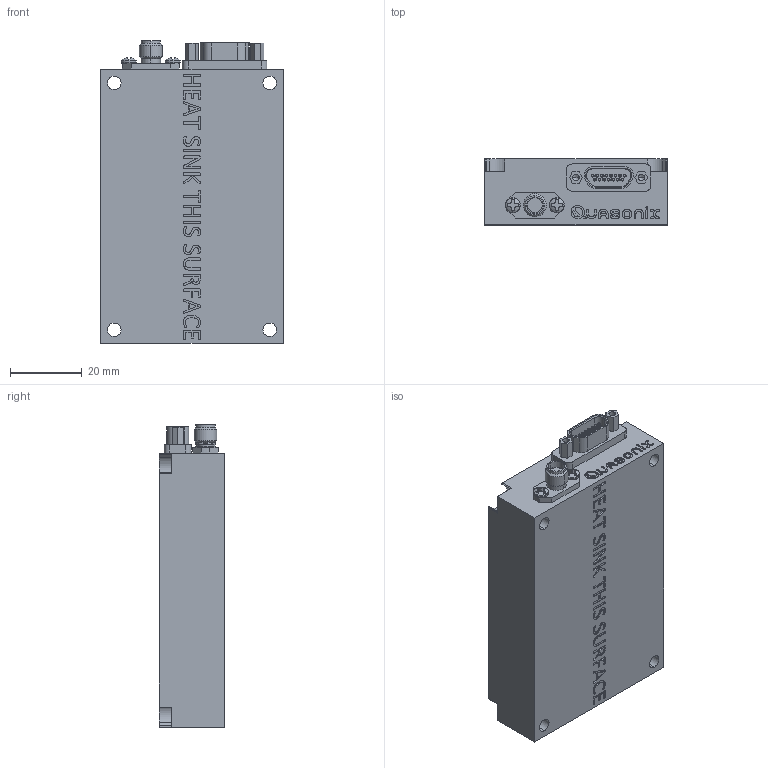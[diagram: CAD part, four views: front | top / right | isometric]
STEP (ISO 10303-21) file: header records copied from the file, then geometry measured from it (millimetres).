
FILE_DESCRIPTION (( 'STEP AP203' ), '1' );
FILE_NAME ('QS-TX-04AGXXX.STEP', '2023-09-06T11:42:59', ( '' ), ( '' ), 'SwSTEP 2.0', 'SolidWorks 2021', '' );
FILE_SCHEMA (( 'CONFIG_CONTROL_DESIGN' ));
Length unit declared in the file: inch
Products named in the file (1): QS-TX-04AGXXX
Bounding box: 50.8 x 18.29 x 84.14 mm (x, y, z)
Volume: 70425.9 mm3; surface area: 14945.5 mm2
Topology: 7 solids, 7 shells, 791 faces, 2030 edges, 1329 vertices
Faces by surface type: plane 315, bspline 254, cylinder 157, cone 49, torus 12, sphere 4
Entity records: 33113 total; most frequent: CARTESIAN_POINT 15248, ORIENTED_EDGE 4052, DIRECTION 2968, EDGE_CURVE 2026, VERTEX_POINT 1329, LINE 1090, VECTOR 1090, AXIS2_PLACEMENT_3D 939
